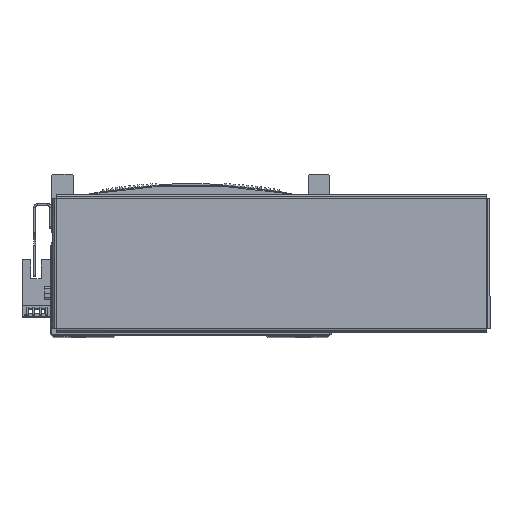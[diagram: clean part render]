
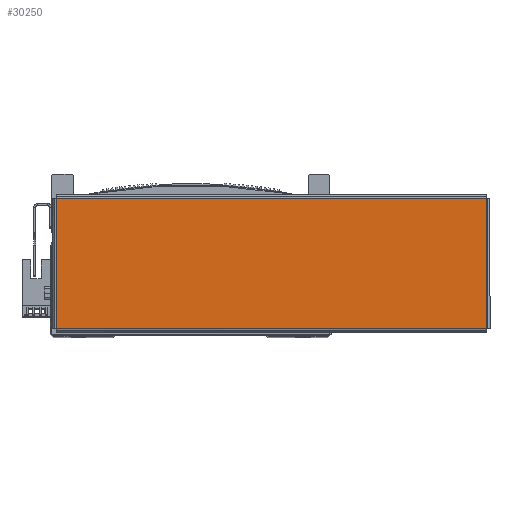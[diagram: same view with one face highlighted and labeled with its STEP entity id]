
A CAD part, top view. The second image highlights one B-rep face of the part: STEP entity #30250.
In plain terms, the highlighted planar face has unit normal (0, 0, 1) as drawn and (0, -1, 0) by its records, which use the part's own axes.
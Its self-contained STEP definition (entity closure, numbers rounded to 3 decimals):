
#3440 = LINE ( 'NONE', #7665, #3445 ) ;
#3445 = VECTOR ( 'NONE', #7659, 1000. ) ;
#3448 = VECTOR ( 'NONE', #7671, 1000. ) ;
#3471 = LINE ( 'NONE', #7688, #3448 ) ;
#3502 = VECTOR ( 'NONE', #56264, 1000. ) ;
#3503 = LINE ( 'NONE', #56116, #3527 ) ;
#3527 = VECTOR ( 'NONE', #56147, 1000. ) ;
#3563 = LINE ( 'NONE', #56210, #3502 ) ;
#7659 = DIRECTION ( 'NONE',  ( 0., 0., 1. ) ) ;
#7665 = CARTESIAN_POINT ( 'NONE',  ( 103.513, -1., -31.393 ) ) ;
#7671 = DIRECTION ( 'NONE',  ( 1., 0., 0. ) ) ;
#7688 = CARTESIAN_POINT ( 'NONE',  ( -103.543, -1., -31.363 ) ) ;
#12860 = VERTEX_POINT ( 'NONE', #53783 ) ;
#12927 = VERTEX_POINT ( 'NONE', #53847 ) ;
#12952 = VERTEX_POINT ( 'NONE', #53806 ) ;
#12957 = VERTEX_POINT ( 'NONE', #53820 ) ;
#15443 = CARTESIAN_POINT ( 'NONE',  ( 0., -1., 0. ) ) ;
#15464 = DIRECTION ( 'NONE',  ( 0., 1., 0. ) ) ;
#15490 = PLANE ( 'NONE',  #39400 ) ;
#15491 = DIRECTION ( 'NONE',  ( 0., 0., 1. ) ) ;
#18284 = FACE_OUTER_BOUND ( 'NONE', #40985, .T. ) ;
#30250 = ADVANCED_FACE ( 'NONE', ( #18284 ), #15490, .F. ) ;
#32162 = ORIENTED_EDGE ( 'NONE', *, *, #37298, .T. ) ;
#32168 = ORIENTED_EDGE ( 'NONE', *, *, #37225, .T. ) ;
#32173 = ORIENTED_EDGE ( 'NONE', *, *, #37203, .T. ) ;
#32917 = ORIENTED_EDGE ( 'NONE', *, *, #37260, .T. ) ;
#37203 = EDGE_CURVE ( 'NONE', #12957, #12927, #3440, .T. ) ;
#37225 = EDGE_CURVE ( 'NONE', #12952, #12957, #3471, .T. ) ;
#37260 = EDGE_CURVE ( 'NONE', #12927, #12860, #3503, .T. ) ;
#37298 = EDGE_CURVE ( 'NONE', #12860, #12952, #3563, .T. ) ;
#39400 = AXIS2_PLACEMENT_3D ( 'NONE', #15443, #15464, #15491 ) ;
#40985 = EDGE_LOOP ( 'NONE', ( #32917, #32162, #32168, #32173 ) ) ;
#53783 = CARTESIAN_POINT ( 'NONE',  ( -103.513, -1., 31.363 ) ) ;
#53806 = CARTESIAN_POINT ( 'NONE',  ( -103.513, -1., -31.363 ) ) ;
#53820 = CARTESIAN_POINT ( 'NONE',  ( 103.513, -1., -31.363 ) ) ;
#53847 = CARTESIAN_POINT ( 'NONE',  ( 103.513, -1., 31.363 ) ) ;
#56116 = CARTESIAN_POINT ( 'NONE',  ( 103.543, -1., 31.363 ) ) ;
#56147 = DIRECTION ( 'NONE',  ( -1., 0., 0. ) ) ;
#56210 = CARTESIAN_POINT ( 'NONE',  ( -103.513, -1., 31.393 ) ) ;
#56264 = DIRECTION ( 'NONE',  ( 0., 0., -1. ) ) ;
